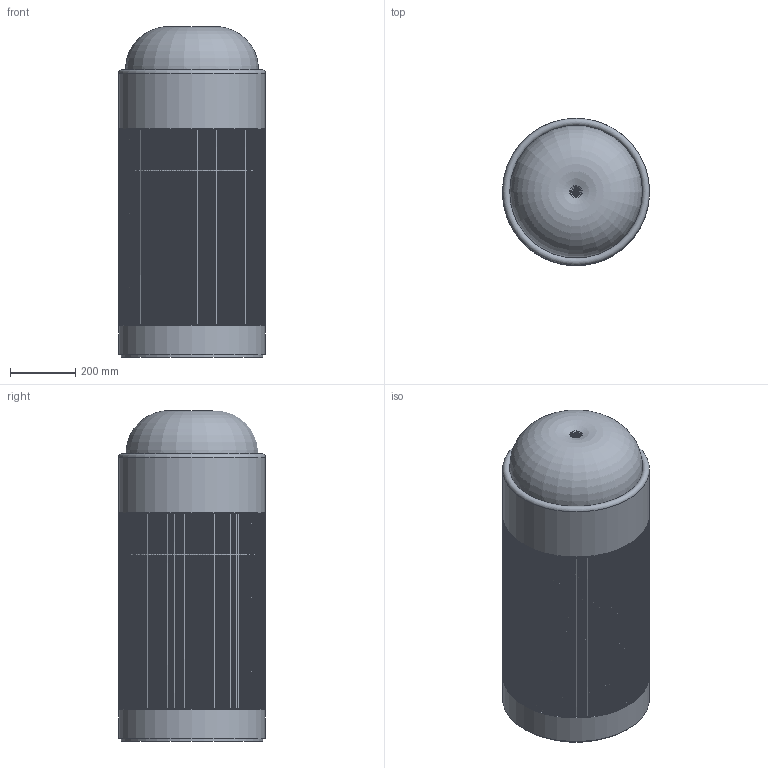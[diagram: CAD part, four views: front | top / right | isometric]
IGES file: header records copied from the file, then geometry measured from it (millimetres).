
Start section: Data from Parasolid IGES Translator 19.0.9, Copyright(c) 2006 Siemens PL M Software. All Rights Reserved.
Global section: file name: noorth-lavabi | washbasin-H 88 D 45 W 45_5075.igs; native system: By Siemens PLM Incorporated; preprocessor: XPlus GENERIC/IGES 19.0.9; author: Noname; organization: Noname; date: 20200511.120016; units: metre
Bounding box: 449.8 x 449.8 x 1011.47 mm (x, y, z)
Volume: 150594971.2 mm3; surface area: 5053964.3 mm2
Topology: 4 solids, 4 shells, 974 faces, 3812 edges, 3791 vertices
Faces by surface type: bspline 872, extrusion 67, cylinder 15, plane 15, torus 3, cone 1, revolution 1
Full cylindrical faces by diameter (mm): 50.25 x1, 55.712 x1, 61.989 x1, 150 x1, 200 x2, 242 x2, 433.825 x1, 442.06 x3, 445.2 x1, 449.8 x2
